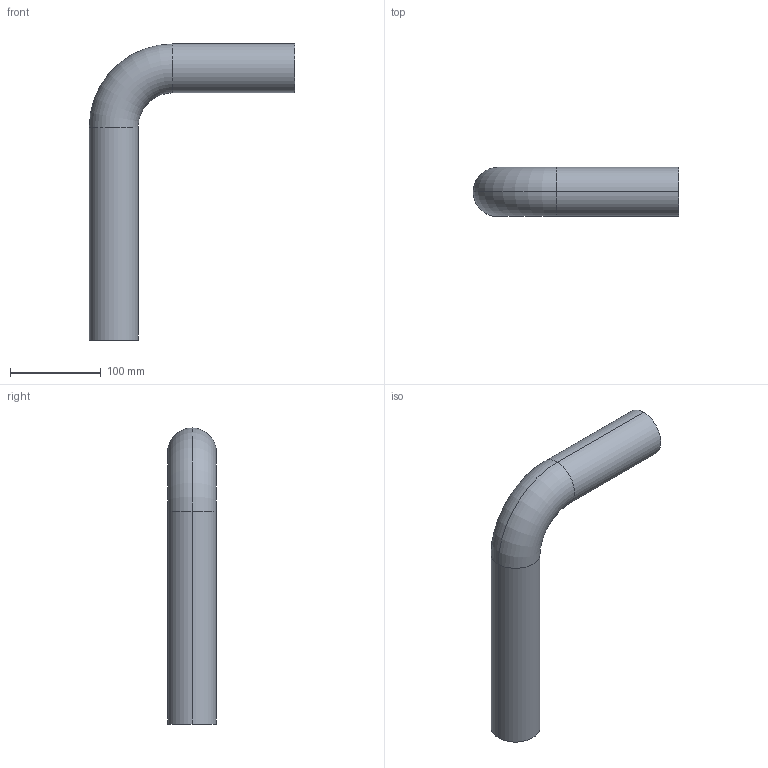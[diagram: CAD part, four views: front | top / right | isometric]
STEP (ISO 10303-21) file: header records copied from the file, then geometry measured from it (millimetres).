
FILE_DESCRIPTION(('OneSpaceDesigner STEP Export'),'2;1');
FILE_NAME('R2725 54x54.stp','2010-06-10T13:04:10',(''),(''),'OneSpace Designer STEP processor for AP214 (Solid Model)','OneSpace Modeling 15.00A 14-Mar-2007 (C) CoCreate Software GmbH','');
FILE_SCHEMA(('AUTOMOTIVE_DESIGN { 1 0 10303 214 1 1 1 1 }'));
Length unit declared in the file: millimetre
Products named in the file (2): R2725_54x54
Assembly tree (1 placements, depth 2):
  R2725_54x54
    R2725_54x54
Bounding box: 227 x 54 x 327 mm (x, y, z)
Volume: 116798.2 mm3; surface area: 156225.7 mm2
Topology: 1 solids, 1 shells, 14 faces, 29 edges, 17 vertices
Faces by surface type: cylinder 8, torus 4, plane 2
Entity records: 362 total; most frequent: ORIENTED_EDGE 58, DIRECTION 56, CARTESIAN_POINT 49, EDGE_CURVE 29, AXIS2_PLACEMENT_3D 24, VERTEX_POINT 17, EDGE_LOOP 16, CIRCLE 14
